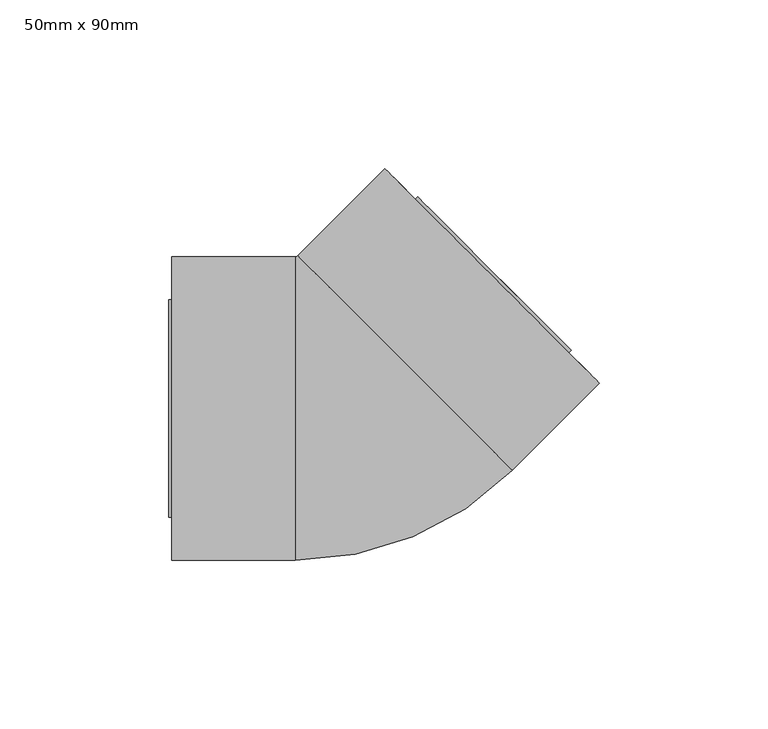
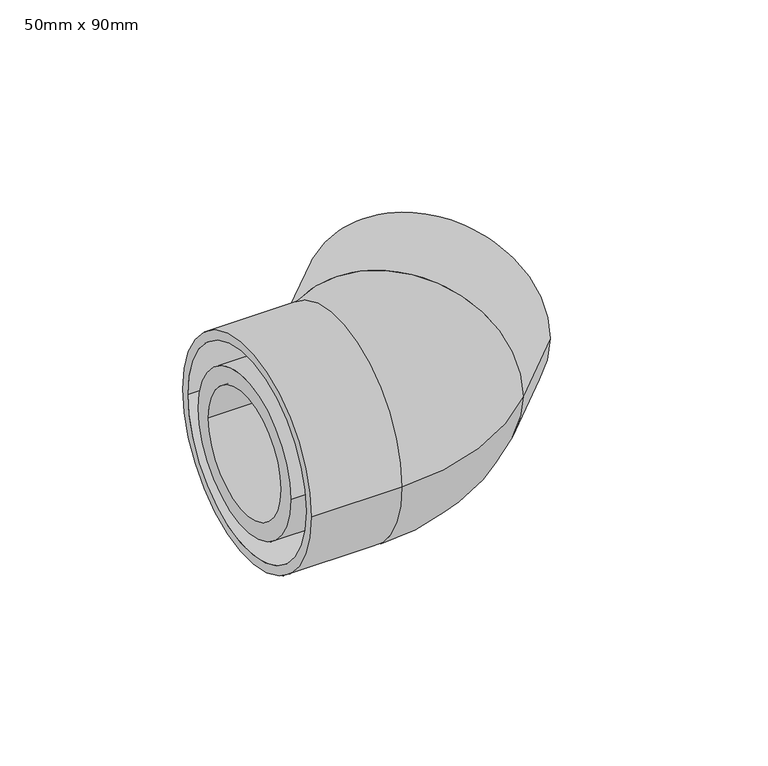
"""IFC4 building model written with IfcOpenShell, lengths in millimetres: pipe fitting geometry, Durapipe_PipeFittings_PLX_CloseFit_45Elbow : 50mm x 90mm."""

from ifc_helpers import new_model, si_unit, point, frame, origin, place, context, project, spatial, polyline, circle_curve, ellipse_curve, trimmed, source, transform, mapped, element, save
from ifc_brep_helpers import plane_surface, cylinder_surface, revolved_surface, advanced_brep


def pipe_fitting_50mm_x_90mm_f965051a(model_context):
    return source(origin(), model_context, "Body", "AdvancedBrep", [
        advanced_brep(
        [(-55.6, -45.0, 0.0), (-55.6, 45.0, 0.0), (-55.6, -41.3, 0.0), (-55.6, 41.3, 0.0), (-19.0538239, -45.0, 0.0), (-19.0538239, 45.0, 0.0), (-19.0538239, -41.3, 0.0), (-19.0538239, 41.3, 0.0), (-18.3467171, 45.2928932, 0.0), (45.2928932, -18.3467171, 0.0), (-15.730422, 42.6765981, 0.0), (42.6765981, -15.730422, 0.0), (71.1349422, 7.4953319, 0.0), (7.4953319, 71.1349422, 0.0), (68.5186471, 10.111627, 0.0), (10.111627, 68.5186471, 0.0)],
        [
            (0, 1, circle_curve(frame((-55.6, 0.0, 0.0), z_axis=(-1.0, 0.0, 0.0), x_axis=(0.0, 1.0, 0.0)), 45.0)),
            (1, 0, circle_curve(frame((-55.6, 0.0, 0.0), z_axis=(-1.0, 0.0, 0.0), x_axis=(0.0, 1.0, 0.0)), 45.0)),
            (2, 3, circle_curve(frame((-55.6, 0.0, 0.0), z_axis=(1.0, 0.0, 0.0), x_axis=(0.0, 1.0, 0.0)), 41.3)),
            (3, 2, circle_curve(frame((-55.6, 0.0, 0.0), z_axis=(1.0, 0.0, 0.0), x_axis=(0.0, 1.0, 0.0)), 41.3)),
            (0, 4),
            (4, 5, circle_curve(frame((-19.0538239, 0.0, 0.0), z_axis=(-1.0, 0.0, 0.0), x_axis=(0.0, 1.0, 0.0)), 45.0)),
            (5, 1),
            (5, 4, circle_curve(frame((-19.0538239, 0.0, 0.0), z_axis=(-1.0, 0.0, 0.0), x_axis=(0.0, 1.0, 0.0)), 45.0)),
            (2, 6),
            (6, 7, circle_curve(frame((-19.0538239, 0.0, 0.0), z_axis=(1.0, 0.0, 0.0), x_axis=(0.0, 1.0, 0.0)), 41.3)),
            (7, 3),
            (7, 6, circle_curve(frame((-19.0538239, 0.0, 0.0), z_axis=(1.0, 0.0, 0.0), x_axis=(0.0, 1.0, 0.0)), 41.3)),
            (8, 5, circle_curve(frame((-19.0538239, 46.0, 0.0), z_axis=(0.0, 0.0, -1.0), x_axis=(0.0, -1.0, 0.0)), 1.0)),
            (4, 9, circle_curve(frame((-19.0538239, 46.0, 0.0), z_axis=(0.0, 0.0, 1.0), x_axis=(0.0, -1.0, 0.0)), 91.0)),
            (9, 8, circle_curve(frame((13.4730881, 13.4730881, 0.0), z_axis=(-0.7071067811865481, -0.7071067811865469, 0.0), x_axis=(-0.7071067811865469, 0.7071067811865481, 0.0)), 45.0)),
            (8, 9, circle_curve(frame((13.4730881, 13.4730881, 0.0), z_axis=(-0.7071067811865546, -0.7071067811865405, 0.0), x_axis=(-0.7071067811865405, 0.7071067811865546, 0.0)), 45.0)),
            (10, 7, circle_curve(frame((-19.0538239, 46.0, 0.0), z_axis=(0.0, 0.0, -1.0), x_axis=(0.0, -1.0, 0.0)), 4.7)),
            (6, 11, circle_curve(frame((-19.0538239, 46.0, 0.0), z_axis=(0.0, 0.0, 1.0), x_axis=(0.0, -1.0, 0.0)), 87.3)),
            (11, 10, circle_curve(frame((13.4730881, 13.4730881, 0.0), z_axis=(0.7071067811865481, 0.7071067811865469, 0.0), x_axis=(-0.7071067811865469, 0.7071067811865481, 0.0)), 41.3)),
            (10, 11, circle_curve(frame((13.4730881, 13.4730881, 0.0), z_axis=(0.7071067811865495, 0.7071067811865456, 0.0), x_axis=(-0.7071067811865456, 0.7071067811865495, 0.0)), 41.3)),
            (12, 13, circle_curve(frame((39.315137, 39.315137, 0.0), z_axis=(0.7071067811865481, 0.7071067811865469, 0.0), x_axis=(-0.7071067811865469, 0.7071067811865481, 0.0)), 45.0)),
            (13, 12, circle_curve(frame((39.315137, 39.315137, 0.0), z_axis=(0.7071067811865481, 0.7071067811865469, 0.0), x_axis=(-0.7071067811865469, 0.7071067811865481, 0.0)), 45.0)),
            (14, 15, circle_curve(frame((39.315137, 39.315137, 0.0), z_axis=(-0.7071067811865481, -0.7071067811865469, 0.0), x_axis=(-0.7071067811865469, 0.7071067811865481, 0.0)), 41.3)),
            (15, 14, circle_curve(frame((39.315137, 39.315137, 0.0), z_axis=(-0.7071067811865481, -0.7071067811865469, 0.0), x_axis=(-0.7071067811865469, 0.7071067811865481, 0.0)), 41.3)),
            (9, 12),
            (13, 8),
            (11, 14),
            (15, 10),
        ],
        [
            plane_surface(frame((-55.6, 0.0, 0.0), z_axis=(-1.0, 0.0, 0.0), x_axis=(0.0, 0.0, 1.0))),
            cylinder_surface(frame((-55.6, 0.0, 0.0), z_axis=(-1.0, 0.0, 0.0), x_axis=(0.0, 1.0, 0.0)), 45.0),
            revolved_surface(polyline([(-19.053823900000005, 41.3, 0.0), (-55.6, 41.3, 0.0)]), (-55.6, 0.0, 0.0), (1.0, 0.0, 0.0)),
            revolved_surface(trimmed(ellipse_curve(frame((-19.0538239, 0.0, 0.0), z_axis=(-1.0, 0.0, 0.0), x_axis=(0.0, 1.0, 0.0)), 45.0, 45.0), [point((-19.0538239, -45.0, 0.0))], [point((-19.0538239, 45.0, 0.0))], True, "CARTESIAN"), (-19.0538239, 46.0, 0.0), (0.0, 0.0, 1.0)),
            revolved_surface(trimmed(ellipse_curve(frame((-19.0538239, 0.0, 0.0), z_axis=(-1.0, 0.0, 0.0), x_axis=(0.0, 1.0, 0.0)), 45.0, 45.0), [point((-19.0538239, 45.0, 0.0))], [point((-19.0538239, -45.0, 0.0))], True, "CARTESIAN"), (-19.0538239, 46.0, 0.0), (0.0, 0.0, 1.0)),
            revolved_surface(trimmed(ellipse_curve(frame((-19.0538239, 0.0, 0.0), z_axis=(1.0, 0.0, 0.0), x_axis=(0.0, 1.0, 0.0)), 41.3, 41.3), [point((-19.0538239, -41.3, 0.0))], [point((-19.0538239, 41.3, 0.0))], True, "CARTESIAN"), (-19.0538239, 46.0, 0.0), (0.0, 0.0, 1.0)),
            revolved_surface(trimmed(ellipse_curve(frame((-19.0538239, 0.0, 0.0), z_axis=(1.0, 0.0, 0.0), x_axis=(0.0, 1.0, 0.0)), 41.3, 41.3), [point((-19.0538239, 41.3, 0.0))], [point((-19.0538239, -41.3, 0.0))], True, "CARTESIAN"), (-19.0538239, 46.0, 0.0), (0.0, 0.0, 1.0)),
            plane_surface(frame((39.315137, 39.315137, 0.0), z_axis=(0.7071067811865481, 0.7071067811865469, 0.0), x_axis=(0.0, 0.0, 1.0))),
            cylinder_surface(frame((13.4730881, 13.4730881, 0.0), z_axis=(-0.7071067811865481, -0.7071067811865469, 0.0), x_axis=(-0.7071067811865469, 0.7071067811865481, 0.0)), 45.0),
            revolved_surface(polyline([(10.111626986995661, 68.51864711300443, 0.0), (-15.73042201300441, 42.67659811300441, 0.0)]), (13.4730881, 13.4730881, 0.0), (0.7071067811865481, 0.7071067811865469, 0.0)),
        ],
        [
            (0, [[1, 2], [3, 4]]),
            (1, [[-1, 5, 6, 7]]),
            (1, [[-2, -7, 8, -5]]),
            (2, [[-3, 9, 10, 11]]),
            (2, [[-4, -11, 12, -9]]),
            (3, [[13, -6, 14, 15]]),
            (4, [[-14, -8, -13, 16]]),
            (5, [[17, -10, 18, 19]]),
            (6, [[-18, -12, -17, 20]]),
            (7, [[21, 22], [23, 24]]),
            (8, [[-15, 25, -22, 26]]),
            (8, [[-16, -26, -21, -25]]),
            (9, [[-19, 27, -24, 28]]),
            (9, [[-20, -28, -23, -27]]),
        ],
    ),
        advanced_brep(
        [(-13.7726009, 32.25, 0.0), (-13.7726009, -32.25, 0.0), (32.5428932, -13.0654942, 0.0), (-13.0654942, 32.5428932, 0.0), (-56.6, -32.25, 0.0), (-56.6, 32.25, 0.0), (-56.6, -25.25, 0.0), (-56.6, 25.25, 0.0), (17.2180501, 62.8264375, 0.0), (62.8264375, 17.2180501, 0.0), (40.0222438, 40.0222438, 25.25), (40.0222438, 40.0222438, -25.25), (-14.6, 25.25, 0.0), (-14.6, -25.25, 0.0), (10.323759, 10.323759, -25.25), (10.323759, 10.323759, 25.25)],
        [
            (0, 1, circle_curve(frame((-13.7726009, 0.0, 0.0), z_axis=(1.0, 0.0, 0.0), x_axis=(0.0, 1.0, 0.0)), 32.25)),
            (1, 2, circle_curve(frame((-13.7726009, 33.25, 0.0), z_axis=(0.0, 0.0, 1.0), x_axis=(0.0, -1.0, 0.0)), 65.5)),
            (2, 3, circle_curve(frame((9.7386995, 9.7386995, 0.0), z_axis=(-0.707106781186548, -0.7071067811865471, 0.0), x_axis=(-0.7071067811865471, 0.707106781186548, 0.0)), 32.25)),
            (3, 0, circle_curve(frame((-13.7726009, 33.25, 0.0), z_axis=(0.0, 0.0, -1.0), x_axis=(0.0, -1.0, 0.0)), 1.0)),
            (1, 0, circle_curve(frame((-13.7726009, 0.0, 0.0), z_axis=(1.0, 0.0, 0.0), x_axis=(0.0, 1.0, 0.0)), 32.25)),
            (3, 2, circle_curve(frame((9.7386995, 9.7386995, 0.0), z_axis=(-0.7071067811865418, -0.7071067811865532, 0.0), x_axis=(-0.7071067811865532, 0.7071067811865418, 0.0)), 32.25)),
            (4, 5, circle_curve(frame((-56.6, 0.0, 0.0), z_axis=(-1.0, 0.0, 0.0), x_axis=(0.0, 1.0, 0.0)), 32.25)),
            (5, 4, circle_curve(frame((-56.6, 0.0, 0.0), z_axis=(-1.0, 0.0, 0.0), x_axis=(0.0, 1.0, 0.0)), 32.25)),
            (6, 7, circle_curve(frame((-56.6, 0.0, 0.0), z_axis=(1.0, 0.0, 0.0), x_axis=(0.0, -1.0, 0.0)), 25.25)),
            (7, 6, circle_curve(frame((-56.6, 0.0, 0.0), z_axis=(1.0, 0.0, 0.0), x_axis=(0.0, -1.0, 0.0)), 25.25)),
            (8, 9, circle_curve(frame((40.0222438, 40.0222438, 0.0), z_axis=(0.7071067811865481, 0.7071067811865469, 0.0), x_axis=(-0.7071067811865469, 0.7071067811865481, 0.0)), 32.25)),
            (9, 8, circle_curve(frame((40.0222438, 40.0222438, 0.0), z_axis=(0.7071067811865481, 0.7071067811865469, 0.0), x_axis=(-0.7071067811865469, 0.7071067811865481, 0.0)), 32.25)),
            (10, 11, circle_curve(frame((40.0222438, 40.0222438, 0.0), z_axis=(-0.7071067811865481, -0.7071067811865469, 0.0), x_axis=(0.0, 0.0, 1.0)), 25.25)),
            (11, 10, circle_curve(frame((40.0222438, 40.0222438, 0.0), z_axis=(-0.7071067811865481, -0.7071067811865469, 0.0), x_axis=(0.0, 0.0, 1.0)), 25.25)),
            (0, 5),
            (4, 1),
            (2, 9),
            (8, 3),
            (12, 13, circle_curve(frame((-14.6, 0.0, 0.0), z_axis=(-1.0, 0.0, 0.0), x_axis=(0.0, -1.0, 0.0)), 25.25)),
            (13, 12, circle_curve(frame((-14.6, 0.0, 0.0), z_axis=(-1.0, 0.0, 0.0), x_axis=(0.0, -1.0, 0.0)), 25.25)),
            (12, 7),
            (6, 13),
            (14, 15, circle_curve(frame((10.323759, 10.323759, 0.0), z_axis=(0.7071067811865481, 0.7071067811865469, 0.0), x_axis=(0.0, 0.0, 1.0)), 25.25)),
            (15, 14, circle_curve(frame((10.323759, 10.323759, 0.0), z_axis=(0.7071067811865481, 0.7071067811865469, 0.0), x_axis=(0.0, 0.0, 1.0)), 25.25)),
            (14, 11),
            (10, 15),
        ],
        [
            revolved_surface(trimmed(ellipse_curve(frame((-13.7726009, 0.0, 0.0), z_axis=(-1.0, 0.0, 0.0), x_axis=(0.0, 1.0, 0.0)), 32.25, 32.25), [point((-13.7726009, -32.25, 0.0))], [point((-13.7726009, 32.25, 0.0))], True, "CARTESIAN"), (-13.7726009, 33.25, 0.0), (0.0, 0.0, 1.0)),
            revolved_surface(trimmed(ellipse_curve(frame((-13.7726009, 0.0, 0.0), z_axis=(-1.0, 0.0, 0.0), x_axis=(0.0, 1.0, 0.0)), 32.25, 32.25), [point((-13.7726009, 32.25, 0.0))], [point((-13.7726009, -32.25, 0.0))], True, "CARTESIAN"), (-13.7726009, 33.25, 0.0), (0.0, 0.0, 1.0)),
            plane_surface(frame((-56.6, 0.0, 0.0), z_axis=(-1.0, 0.0, 0.0), x_axis=(0.0, 0.0, 1.0))),
            plane_surface(frame((40.0222438, 40.0222438, 0.0), z_axis=(0.7071067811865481, 0.7071067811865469, 0.0), x_axis=(0.0, 0.0, 1.0))),
            cylinder_surface(frame((-56.6, 0.0, 0.0), z_axis=(-1.0, 0.0, 0.0), x_axis=(0.0, 1.0, 0.0)), 32.25),
            cylinder_surface(frame((9.7386995, 9.7386995, 0.0), z_axis=(-0.7071067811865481, -0.7071067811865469, 0.0), x_axis=(-0.7071067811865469, 0.7071067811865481, 0.0)), 32.25),
            plane_surface(frame((-14.6, -25.25, 0.0), z_axis=(-1.0, 0.0, 0.0), x_axis=(0.0, 0.0, -1.0))),
            revolved_surface(polyline([(-56.6, -25.25, 0.0), (-14.6, -25.25, 0.0)]), (-14.6, 0.0, 0.0), (-1.0, 0.0, 0.0)),
            plane_surface(frame((10.323759, 10.323759, 25.25), z_axis=(0.7071067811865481, 0.7071067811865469, 0.0), x_axis=(-0.7071067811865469, 0.7071067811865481, 0.0))),
            revolved_surface(polyline([(40.02224380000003, 40.02224379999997, 25.25), (10.323759, 10.323759, 25.25)]), (10.323759, 10.323759, 0.0), (0.7071067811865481, 0.7071067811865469, 0.0)),
        ],
        [
            (0, [[1, 2, 3, 4]]),
            (1, [[5, -4, 6, -2]]),
            (2, [[7, 8], [9, 10]]),
            (3, [[11, 12], [13, 14]]),
            (4, [[-1, 15, -7, 16]]),
            (4, [[-5, -16, -8, -15]]),
            (5, [[-3, 17, -11, 18]]),
            (5, [[-6, -18, -12, -17]]),
            (6, [[19, 20]]),
            (7, [[-19, 21, -9, 22]]),
            (7, [[-20, -22, -10, -21]]),
            (8, [[23, 24]]),
            (9, [[-23, 25, -13, 26]]),
            (9, [[-24, -26, -14, -25]]),
        ],
    ),
    ])


if __name__ == "__main__":
    model = new_model("IFC4")
    model_context = context("Model", 3, world=origin())
    ifc_project = project(units=[si_unit("LENGTHUNIT", "METRE", prefix="MILLI")], contexts=[model_context])
    site = spatial("IfcSite", under=ifc_project)
    building = spatial("IfcBuilding", under=site)
    placement = place(None, origin())
    pipe_fitting_50mm_x_90mm_shape = pipe_fitting_50mm_x_90mm_f965051a(model_context)
    element("IfcPipeFitting", 1, ObjectType="Durapipe_PipeFittings_PLX_CloseFit_45Elbow : 50mm x 90mm", at=placement, inside=building, context=model_context, shape_type="MappedRepresentation", body=[
        mapped(pipe_fitting_50mm_x_90mm_shape, transform((0.0, 0.0, 0.0), x_axis=(1.0, 0.0, 0.0), y_axis=(0.0, 1.0, 0.0), z_axis=(0.0, 0.0, 1.0))),
    ])
    save(model, "model.ifc")
